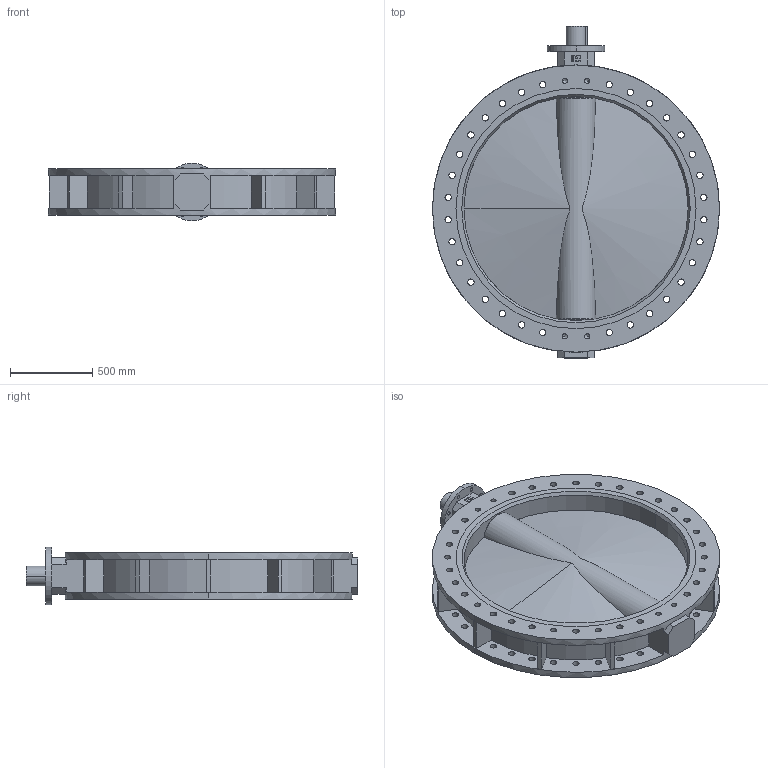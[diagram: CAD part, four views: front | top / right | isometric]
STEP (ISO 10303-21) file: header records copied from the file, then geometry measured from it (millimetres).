
FILE_DESCRIPTION (( 'STEP AP214' ), '1' );
FILE_NAME ('D41400._1.step', '2013-07-30T15:19:45', ( 'mbuehlmann' ), ( '' ), 'SwSTEP 2.0', 'SolidWorks 2012', '' );
FILE_SCHEMA (( 'AUTOMOTIVE_DESIGN' ));
Length unit declared in the file: millimetre
Products named in the file (6): ia-Logo40; ia-scheibe250_ia-scheibe1400; ia-Dichtungbasic_Dichtung1400; ia-Keil_ia-Keil1400; BO.D41400._1; D41400._1
Assembly tree (5 placements, depth 2):
  D41400._1
    BO.D41400._1
    ia-Keil_ia-Keil1400
    ia-Dichtungbasic_Dichtung1400
    ia-scheibe250_ia-scheibe1400
    ia-Logo40
Bounding box: 1746 x 2018 x 350 mm (x, y, z)
Volume: 289825501.1 mm3; surface area: 13050405.2 mm2
Topology: 5 solids, 5 shells, 323 faces, 905 edges, 584 vertices
Faces by surface type: cylinder 190, plane 89, cone 32, torus 10, sphere 2
Entity records: 11584 total; most frequent: CARTESIAN_POINT 2320, DIRECTION 1938, ORIENTED_EDGE 1772, EDGE_CURVE 886, AXIS2_PLACEMENT_3D 753, VERTEX_POINT 583, EDGE_LOOP 483, LINE 432
